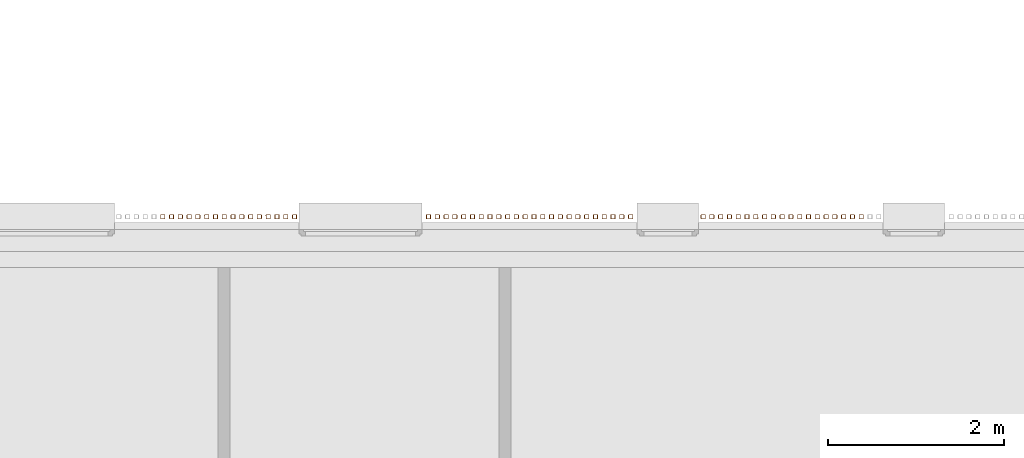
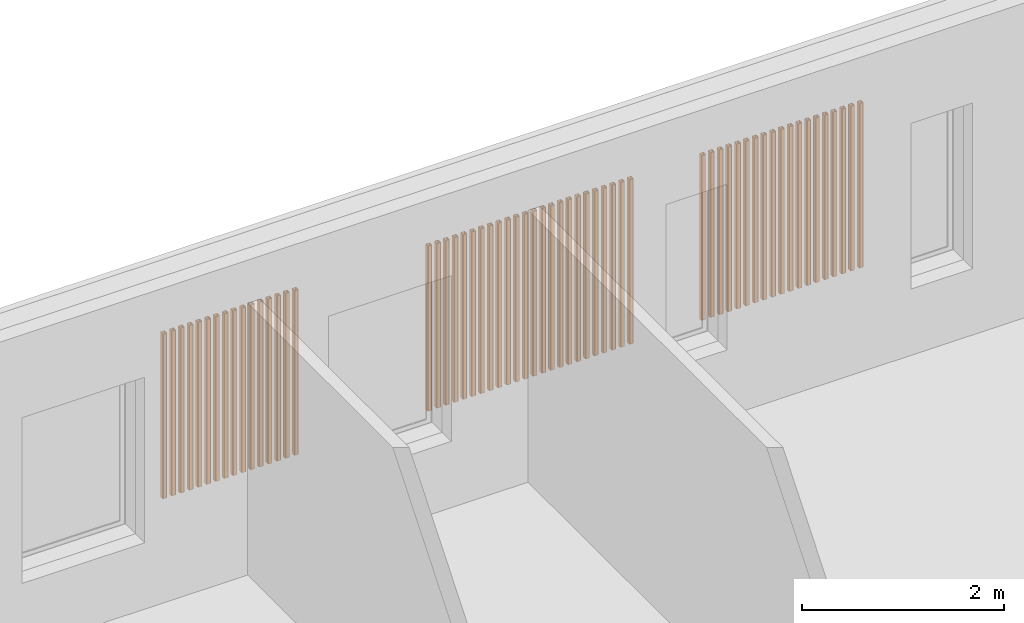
# One storey, part 72 of 112: 59 proxies.
"""IFC2X3 building model written with IfcOpenShell, lengths in millimetres."""

from ifc_helpers import new_model, entity, si_unit, converted_unit, derived_unit, money_unit, direction, frame, origin_with_axes, place, context, subcontext, project, spatial, faceted_brep, source, transform, mapped, material, type_object, element, save


model = new_model("IFC2X3")

# Units and contexts
model_context = context("Model", 3, precision=0.01, world=origin_with_axes(), true_north=direction((0.0, 1.0)))
body_context = subcontext(model_context, "Body", "Model", "MODEL_VIEW")
ifc_project = project(units=[si_unit("LENGTHUNIT", "METRE", prefix="MILLI"), si_unit("AREAUNIT", "SQUARE_METRE"), si_unit("VOLUMEUNIT", "CUBIC_METRE"), converted_unit("PLANEANGLEUNIT", "DEGREE", entity("IfcPlaneAngleMeasure", 0.0174532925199), si_unit("PLANEANGLEUNIT", "RADIAN"), dimensions=[0, 0, 0, 0, 0, 0, 0]), si_unit("SOLIDANGLEUNIT", "STERADIAN"), money_unit("EUR"), converted_unit("TIMEUNIT", "Year", entity("IfcTimeMeasure", 31556926.0), si_unit("TIMEUNIT", "SECOND"), dimensions=[0, 0, 1, 0, 0, 0, 0]), si_unit("MASSUNIT", "GRAM", prefix="KILO"), si_unit("THERMODYNAMICTEMPERATUREUNIT", "DEGREE_CELSIUS"), si_unit("LUMINOUSINTENSITYUNIT", "LUMEN"), si_unit("ENERGYUNIT", "JOULE", prefix="MEGA"), derived_unit("THERMALCONDUCTANCEUNIT", [(si_unit("POWERUNIT", "WATT"), 1), (si_unit("LENGTHUNIT", "METRE"), -1), (si_unit("THERMODYNAMICTEMPERATUREUNIT", "KELVIN"), -1)]), derived_unit("SPECIFICHEATCAPACITYUNIT", [(si_unit("ENERGYUNIT", "JOULE"), 1), (si_unit("MASSUNIT", "GRAM", prefix="KILO"), -1), (si_unit("THERMODYNAMICTEMPERATUREUNIT", "KELVIN"), -1)]), derived_unit("MASSDENSITYUNIT", [(si_unit("MASSUNIT", "GRAM", prefix="KILO"), 1), (si_unit("VOLUMEUNIT", "CUBIC_METRE"), -1)])], contexts=[model_context])

# Site, building, storey
site_placement = place(None, origin_with_axes())
site = spatial("IfcSite", under=ifc_project, at=site_placement, Name="Politse- ja Piirivalveameti ning Päästeameti ühishoone", CompositionType="ELEMENT")
building_placement = place(site_placement, origin_with_axes())
building = spatial("IfcBuilding", under=site, at=building_placement, Name="Politse- ja Piirivalveameti ning Päästeameti ühishoone", CompositionType="ELEMENT")
storey_placement = place(building_placement, origin_with_axes())
storey = spatial("IfcBuildingStorey", under=building, at=storey_placement, Name="Esimene korrus", CompositionType="ELEMENT", Elevation=0.0)

# Proxies
ifc_material = material(Name="ET-05_Teras")
building_element_proxy_type = type_object("IfcBuildingElementProxyType", Name="SHS Cold-Formed Column 23", PredefinedType="NOTDEFINED")
shared_shape = source(origin_with_axes(), body_context, "Body", "Brep", [
    faceted_brep([(19.0, -25.0, 0.0), (19.0, -25.0, 1990.0), (-19.0, -25.0, 1990.0), (-19.0, -25.0, 0.0), (23.2426406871, -23.2426406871, 0.0), (23.2426406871, -23.2426406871, 1990.0), (25.0, -19.0, 1990.0), (25.0, 19.0, 1990.0), (23.2426406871, 23.2426406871, 1990.0), (19.0, 25.0, 1990.0), (-19.0, 25.0, 1990.0), (-23.2426406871, 23.2426406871, 1990.0), (-25.0, 19.0, 1990.0), (-25.0, -19.0, 1990.0), (-23.2426406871, -23.2426406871, 1990.0), (19.0, -22.0, 1990.0), (-19.0, -22.0, 1990.0), (-21.1213203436, -21.1213203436, 1990.0), (-22.0, -19.0, 1990.0), (-22.0, 19.0, 1990.0), (-21.1213203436, 21.1213203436, 1990.0), (-19.0, 22.0, 1990.0), (19.0, 22.0, 1990.0), (21.1213203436, 21.1213203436, 1990.0), (22.0, 19.0, 1990.0), (22.0, -19.0, 1990.0), (21.1213203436, -21.1213203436, 1990.0), (-23.2426406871, -23.2426406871, 0.0), (-25.0, -19.0, 0.0), (-25.0, 19.0, 0.0), (-23.2426406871, 23.2426406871, 0.0), (-19.0, 25.0, 0.0), (19.0, 25.0, 0.0), (23.2426406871, 23.2426406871, 0.0), (25.0, 19.0, 0.0), (25.0, -19.0, 0.0), (19.0, -22.0, 0.0), (21.1213203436, -21.1213203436, 0.0), (22.0, -19.0, 0.0), (22.0, 19.0, 0.0), (21.1213203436, 21.1213203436, 0.0), (19.0, 22.0, 0.0), (-19.0, 22.0, 0.0), (-21.1213203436, 21.1213203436, 0.0), (-22.0, 19.0, 0.0), (-22.0, -19.0, 0.0), (-21.1213203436, -21.1213203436, 0.0), (-19.0, -22.0, 0.0)], [[[0, 1, 2, 3]], [[4, 5, 1, 0]], [[1, 5, 6, 7, 8, 9, 10, 11, 12, 13, 14, 2], [15, 16, 17, 18, 19, 20, 21, 22, 23, 24, 25, 26]], [[3, 2, 14, 27]], [[0, 3, 27, 28, 29, 30, 31, 32, 33, 34, 35, 4], [36, 37, 38, 39, 40, 41, 42, 43, 44, 45, 46, 47]], [[35, 6, 5, 4]], [[34, 7, 6, 35]], [[33, 8, 7, 34]], [[32, 9, 8, 33]], [[31, 10, 9, 32]], [[30, 11, 10, 31]], [[29, 12, 11, 30]], [[28, 13, 12, 29]], [[27, 14, 13, 28]], [[47, 16, 15, 36]], [[46, 17, 16, 47]], [[45, 18, 17, 46]], [[44, 19, 18, 45]], [[43, 20, 19, 44]], [[42, 21, 20, 43]], [[41, 22, 21, 42]], [[40, 23, 22, 41]], [[39, 24, 23, 40]], [[38, 25, 24, 39]], [[37, 26, 25, 38]], [[36, 15, 26, 37]]]),
])
for number, where, z_axis, x_axis in (
    (1, (45584.1843136, 21574.5959735, 810.0), (0.0, 0.0, 1.0), (1.30049800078e-07, -1.0, 0.0)),
    (2, (45084.1843136, 21574.5959084, 810.0), (0.0, 0.0, 1.0), (1.30049800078e-07, -1.0, 0.0)),
    (3, (45184.1843136, 21574.5959214, 810.0), (0.0, 0.0, 1.0), (1.30049800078e-07, -1.0, 0.0)),
    (4, (45284.1843136, 21574.5959344, 810.0), (0.0, 0.0, 1.0), (1.30049800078e-07, -1.0, 0.0)),
    (5, (45384.1843136, 21574.5959474, 810.0), (0.0, 0.0, 1.0), (1.30049800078e-07, -1.0, 0.0)),
    (6, (45484.1843136, 21574.5959604, 810.0), (0.0, 0.0, 1.0), (1.30049800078e-07, -1.0, 0.0)),
    (7, (44584.1843136, 21574.5958434, 810.0), (0.0, 0.0, 1.0), (1.30049800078e-07, -1.0, 0.0)),
    (8, (44684.1843136, 21574.5958564, 810.0), (0.0, 0.0, 1.0), (1.30049800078e-07, -1.0, 0.0)),
    (9, (44784.1843136, 21574.5958694, 810.0), (0.0, 0.0, 1.0), (1.30049800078e-07, -1.0, 0.0)),
    (10, (44884.1843136, 21574.5958824, 810.0), (0.0, 0.0, 1.0), (1.30049800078e-07, -1.0, 0.0)),
    (11, (44984.1843136, 21574.5958954, 810.0), (0.0, 0.0, 1.0), (1.30049800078e-07, -1.0, 0.0)),
    (12, (44284.1843136, 21574.5958044, 810.0), (0.0, 0.0, 1.0), (1.30049800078e-07, -1.0, 0.0)),
    (13, (44384.1843136, 21574.5958174, 810.0), (0.0, 0.0, 1.0), (1.30049800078e-07, -1.0, 0.0)),
    (14, (44484.1843136, 21574.5958304, 810.0), (0.0, 0.0, 1.0), (1.30049800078e-07, -1.0, 0.0)),
    (15, (45784.1843136, 21574.5959995, 810.0), (0.0, 0.0, 1.0), (1.30049800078e-07, -1.0, 0.0)),
    (16, (45884.1843136, 21574.5960125, 810.0), (0.0, 0.0, 1.0), (1.30049800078e-07, -1.0, 0.0)),
    (17, (45984.1843136, 21574.5960255, 810.0), (0.0, 0.0, 1.0), (1.30049800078e-07, -1.0, 0.0)),
    (18, (46084.1843136, 21574.5960385, 810.0), (0.0, 0.0, 1.0), (1.30049800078e-07, -1.0, 0.0)),
    (19, (45684.1843136, 21574.5959865, 810.0), (0.0, 0.0, 1.0), (1.30049800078e-07, -1.0, 0.0)),
    (20, (42459.1843136, 21574.5959735, 810.0), (0.0, 0.0, 1.0), (1.30049800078e-07, -1.0, 0.0)),
    (21, (41959.1843136, 21574.5959084, 810.0), (0.0, 0.0, 1.0), (1.30049800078e-07, -1.0, 0.0)),
    (22, (42059.1843136, 21574.5959214, 810.0), (0.0, 0.0, 1.0), (1.30049800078e-07, -1.0, 0.0)),
    (23, (42159.1843136, 21574.5959344, 810.0), (0.0, 0.0, 1.0), (1.30049800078e-07, -1.0, 0.0)),
    (24, (42259.1843136, 21574.5959474, 810.0), (0.0, 0.0, 1.0), (1.30049800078e-07, -1.0, 0.0)),
    (25, (42359.1843136, 21574.5959604, 810.0), (0.0, 0.0, 1.0), (1.30049800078e-07, -1.0, 0.0)),
    (26, (41459.1843136, 21574.5958434, 810.0), (0.0, 0.0, 1.0), (1.30049800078e-07, -1.0, 0.0)),
    (27, (41559.1843136, 21574.5958564, 810.0), (0.0, 0.0, 1.0), (1.30049800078e-07, -1.0, 0.0)),
    (28, (41659.1843136, 21574.5958694, 810.0), (0.0, 0.0, 1.0), (1.30049800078e-07, -1.0, 0.0)),
    (29, (41759.1843136, 21574.5958824, 810.0), (0.0, 0.0, 1.0), (1.30049800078e-07, -1.0, 0.0)),
    (30, (41859.1843136, 21574.5958954, 810.0), (0.0, 0.0, 1.0), (1.30049800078e-07, -1.0, 0.0)),
    (31, (41159.1843136, 21574.5958044, 810.0), (0.0, 0.0, 1.0), (1.30049800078e-07, -1.0, 0.0)),
    (32, (41259.1843136, 21574.5958174, 810.0), (0.0, 0.0, 1.0), (1.30049800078e-07, -1.0, 0.0)),
    (33, (41359.1843136, 21574.5958304, 810.0), (0.0, 0.0, 1.0), (1.30049800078e-07, -1.0, 0.0)),
    (34, (43159.1843136, 21574.5960645, 810.0), (0.0, 0.0, 1.0), (1.30049800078e-07, -1.0, 0.0)),
    (35, (42659.1843136, 21574.5959995, 810.0), (0.0, 0.0, 1.0), (1.30049800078e-07, -1.0, 0.0)),
    (36, (42759.1843136, 21574.5960125, 810.0), (0.0, 0.0, 1.0), (1.30049800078e-07, -1.0, 0.0)),
    (37, (42859.1843136, 21574.5960255, 810.0), (0.0, 0.0, 1.0), (1.30049800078e-07, -1.0, 0.0)),
    (38, (42959.1843136, 21574.5960385, 810.0), (0.0, 0.0, 1.0), (1.30049800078e-07, -1.0, 0.0)),
    (39, (43059.1843136, 21574.5960515, 810.0), (0.0, 0.0, 1.0), (1.30049800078e-07, -1.0, 0.0)),
    (40, (42559.1843136, 21574.5959865, 810.0), (0.0, 0.0, 1.0), (1.30049800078e-07, -1.0, 0.0)),
    (41, (43259.1843136, 21574.5960775, 810.0), (0.0, 0.0, 1.0), (1.30049800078e-07, -1.0, 0.0)),
    (42, (43359.1843136, 21574.5960905, 810.0), (0.0, 0.0, 1.0), (1.30049800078e-07, -1.0, 0.0)),
    (43, (43459.1843136, 21574.5961035, 810.0), (0.0, 0.0, 1.0), (1.30049800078e-07, -1.0, 0.0)),
    (44, (38934.1843136, 21574.5962791, 810.0), (0.0, 0.0, 1.0), (1.30049800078e-07, -1.0, 0.0)),
    (45, (38434.1843136, 21574.596214, 810.0), (0.0, 0.0, 1.0), (1.30049800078e-07, -1.0, 0.0)),
    (46, (38534.1843136, 21574.5962271, 810.0), (0.0, 0.0, 1.0), (1.30049800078e-07, -1.0, 0.0)),
    (47, (38634.1843136, 21574.5962401, 810.0), (0.0, 0.0, 1.0), (1.30049800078e-07, -1.0, 0.0)),
    (48, (38734.1843136, 21574.5962531, 810.0), (0.0, 0.0, 1.0), (1.30049800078e-07, -1.0, 0.0)),
    (49, (38834.1843136, 21574.5962661, 810.0), (0.0, 0.0, 1.0), (1.30049800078e-07, -1.0, 0.0)),
    (50, (38134.1843136, 21574.596175, 810.0), (0.0, 0.0, 1.0), (1.30049800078e-07, -1.0, 0.0)),
    (51, (38234.1843136, 21574.596188, 810.0), (0.0, 0.0, 1.0), (1.30049800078e-07, -1.0, 0.0)),
    (52, (38334.1843136, 21574.596201, 810.0), (0.0, 0.0, 1.0), (1.30049800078e-07, -1.0, 0.0)),
    (53, (39634.1843136, 21574.5963701, 810.0), (0.0, 0.0, 1.0), (1.30049800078e-07, -1.0, 0.0)),
    (54, (39134.1843136, 21574.5963051, 810.0), (0.0, 0.0, 1.0), (1.30049800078e-07, -1.0, 0.0)),
    (55, (39234.1843136, 21574.5963181, 810.0), (0.0, 0.0, 1.0), (1.30049800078e-07, -1.0, 0.0)),
    (56, (39334.1843136, 21574.5963311, 810.0), (0.0, 0.0, 1.0), (1.30049800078e-07, -1.0, 0.0)),
    (57, (39434.1843136, 21574.5963441, 810.0), (0.0, 0.0, 1.0), (1.30049800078e-07, -1.0, 0.0)),
    (58, (39534.1843136, 21574.5963571, 810.0), (0.0, 0.0, 1.0), (1.30049800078e-07, -1.0, 0.0)),
    (59, (39034.1843136, 21574.5962921, 810.0), (0.0, 0.0, 1.0), (1.30049800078e-07, -1.0, 0.0)),
):
    element("IfcBuildingElementProxy", number, at=place(storey_placement, frame(where, z_axis=z_axis, x_axis=x_axis)), inside=storey, type_object=building_element_proxy_type, material=ifc_material, Name="Fassaadiribid", context=body_context, shape_type="MappedRepresentation", body=[
        mapped(shared_shape, transform((0.0, 0.0, 0.0))),
    ])

save(model, "model.ifc")
